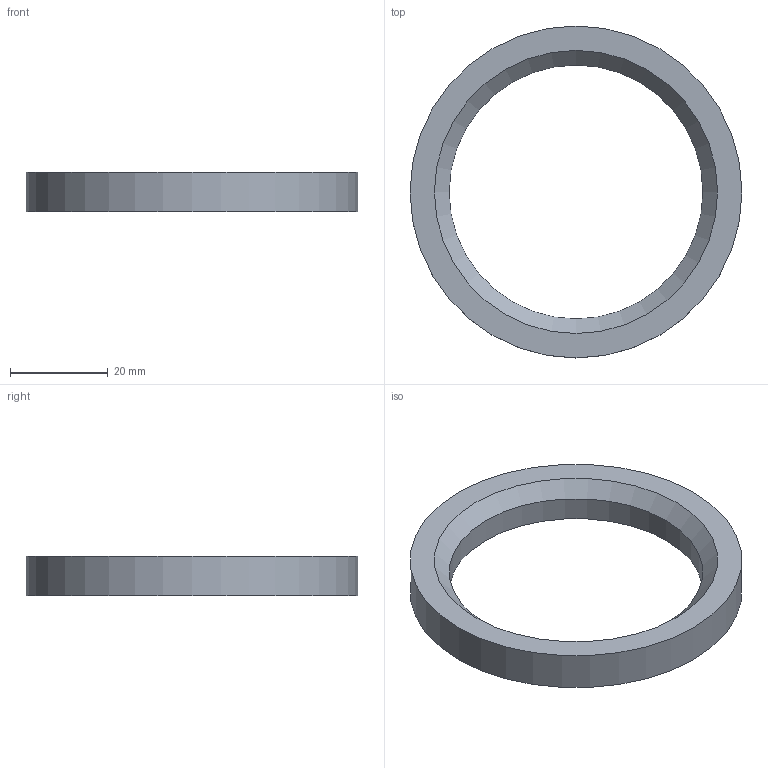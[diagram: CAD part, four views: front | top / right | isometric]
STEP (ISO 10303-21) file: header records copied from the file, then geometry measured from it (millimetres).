
FILE_DESCRIPTION(('Open CASCADE Model'),'2;1');
FILE_NAME('Open CASCADE Shape Model','2026-10-21T17:23:51',('Author'),( 'Open CASCADE'),'Open CASCADE STEP processor 7.9','Open CASCADE 7.9' ,'Unknown');
FILE_SCHEMA(('AUTOMOTIVE_DESIGN { 1 0 10303 214 1 1 1 1 }'));
Length unit declared in the file: millimetre
Products named in the file (1): Open CASCADE STEP translator 7.9 40
Bounding box: 68 x 68 x 8 mm (x, y, z)
Volume: 11300.3 mm3; surface area: 5756.5 mm2
Topology: 1 solids, 1 shells, 5 faces, 8 edges, 5 vertices
Faces by surface type: cylinder 2, plane 2, cone 1
Full cylindrical faces by diameter (mm): 52 x1, 68 x1
Entity records: 240 total; most frequent: CARTESIAN_POINT 41, DIRECTION 40, ORIENTED_EDGE 16, PCURVE 16, DEFINITIONAL_REPRESENTATION 16, LINE 15, VECTOR 15, AXIS2_PLACEMENT_3D 11
